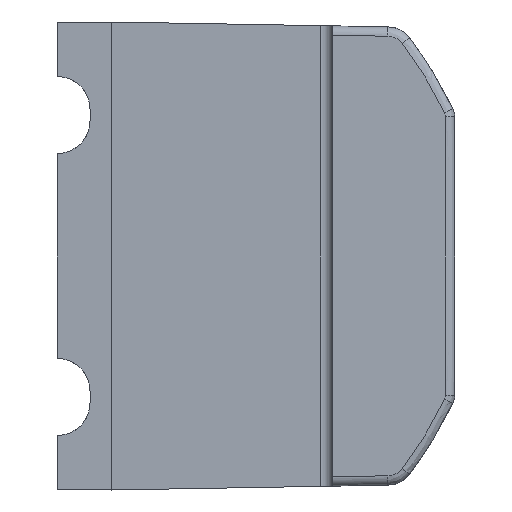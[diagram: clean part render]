
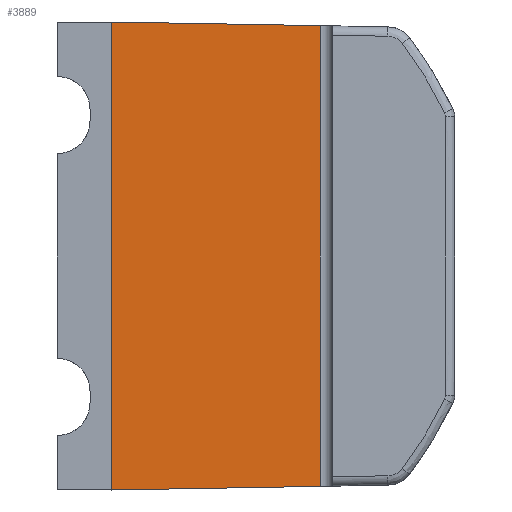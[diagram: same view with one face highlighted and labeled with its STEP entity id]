
A CAD part, front view. The second image highlights one B-rep face of the part: STEP entity #3889.
In plain terms, the highlighted planar face has unit normal (-0.009, -1, 0).
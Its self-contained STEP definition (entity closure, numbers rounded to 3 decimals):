
#21 = DIRECTION ( 'NONE',  ( -0.009, -1., 0. ) ) ;
#26 = DIRECTION ( 'NONE',  ( 1., -0.009, 0.017 ) ) ;
#450 = CARTESIAN_POINT ( 'NONE',  ( 4.9, 0.081, -12.449 ) ) ;
#487 = DIRECTION ( 'NONE',  ( 1., -0.009, 0. ) ) ;
#1088 = LINE ( 'NONE', #3992, #2568 ) ;
#1119 = CARTESIAN_POINT ( 'NONE',  ( 16.008, -0.016, 12.255 ) ) ;
#1265 = ORIENTED_EDGE ( 'NONE', *, *, #4024, .F. ) ;
#1340 = EDGE_CURVE ( 'NONE', #4887, #5111, #1088, .T. ) ;
#1824 = ORIENTED_EDGE ( 'NONE', *, *, #1340, .T. ) ;
#1922 = FACE_OUTER_BOUND ( 'NONE', #4111, .T. ) ;
#1958 = LINE ( 'NONE', #4349, #4167 ) ;
#1972 = EDGE_CURVE ( 'NONE', #5628, #4887, #1958, .T. ) ;
#2328 = CARTESIAN_POINT ( 'NONE',  ( 14.15, 0., 12.5 ) ) ;
#2528 = CARTESIAN_POINT ( 'NONE',  ( 1.912, 0.107, 12.502 ) ) ;
#2568 = VECTOR ( 'NONE', #5961, 1000. ) ;
#2849 = VERTEX_POINT ( 'NONE', #6117 ) ;
#3101 = ORIENTED_EDGE ( 'NONE', *, *, #3182, .F. ) ;
#3155 = VECTOR ( 'NONE', #5528, 1000. ) ;
#3182 = EDGE_CURVE ( 'NONE', #2849, #5111, #5380, .T. ) ;
#3889 = ADVANCED_FACE ( 'NONE', ( #1922 ), #6221, .T. ) ;
#3992 = CARTESIAN_POINT ( 'NONE',  ( 16.008, -0.016, 0. ) ) ;
#4024 = EDGE_CURVE ( 'NONE', #5628, #2849, #4068, .T. ) ;
#4068 = LINE ( 'NONE', #6003, #3155 ) ;
#4111 = EDGE_LOOP ( 'NONE', ( #1265, #4369, #1824, #3101 ) ) ;
#4143 = CARTESIAN_POINT ( 'NONE',  ( 16.008, -0.016, -12.255 ) ) ;
#4167 = VECTOR ( 'NONE', #26, 1000. ) ;
#4349 = CARTESIAN_POINT ( 'NONE',  ( 1.912, 0.107, -12.502 ) ) ;
#4369 = ORIENTED_EDGE ( 'NONE', *, *, #1972, .T. ) ;
#4887 = VERTEX_POINT ( 'NONE', #4143 ) ;
#5111 = VERTEX_POINT ( 'NONE', #1119 ) ;
#5348 = DIRECTION ( 'NONE',  ( 1., -0.009, -0.017 ) ) ;
#5380 = LINE ( 'NONE', #2528, #5960 ) ;
#5493 = AXIS2_PLACEMENT_3D ( 'NONE', #2328, #21, #487 ) ;
#5528 = DIRECTION ( 'NONE',  ( 0., 0., 1. ) ) ;
#5628 = VERTEX_POINT ( 'NONE', #450 ) ;
#5960 = VECTOR ( 'NONE', #5348, 1000. ) ;
#5961 = DIRECTION ( 'NONE',  ( 0., 0., 1. ) ) ;
#6003 = CARTESIAN_POINT ( 'NONE',  ( 4.9, 0.081, 12.5 ) ) ;
#6117 = CARTESIAN_POINT ( 'NONE',  ( 4.9, 0.081, 12.449 ) ) ;
#6221 = PLANE ( 'NONE',  #5493 ) ;
